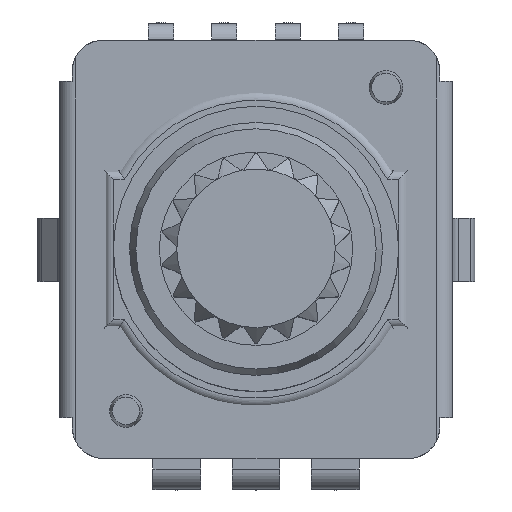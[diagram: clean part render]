
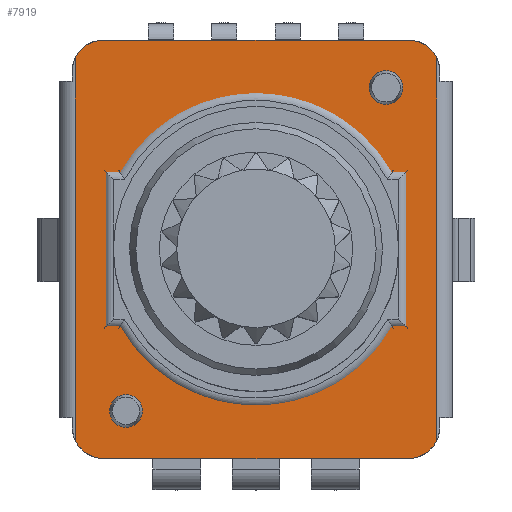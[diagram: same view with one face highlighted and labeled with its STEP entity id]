
A CAD part, top view. The second image highlights one B-rep face of the part: STEP entity #7919.
In plain terms, the highlighted planar face has unit normal (0, 0, 1).
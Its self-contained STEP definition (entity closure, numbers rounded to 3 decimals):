
#1057=LINE($,#12821,#1952);
#1144=LINE($,#13047,#2039);
#1199=LINE($,#13164,#2094);
#1200=LINE($,#13165,#2095);
#1952=VECTOR($,#10313,12.072);
#2039=VECTOR($,#10498,12.072);
#2094=VECTOR($,#10619,9.6);
#2095=VECTOR($,#10620,9.6);
#2612=FACE_OUTER_BOUND($,#3005,.T.);
#3005=EDGE_LOOP($,(#7128,#7129,#7130,#7131,#7132,#7133,#7134,#7135));
#3220=CIRCLE($,#8472,1.);
#3222=CIRCLE($,#8476,1.);
#3225=CIRCLE($,#8483,1.);
#3228=CIRCLE($,#8488,1.);
#3937=VERTEX_POINT($,#12774);
#3940=VERTEX_POINT($,#12785);
#3943=VERTEX_POINT($,#12795);
#3945=VERTEX_POINT($,#12804);
#3951=VERTEX_POINT($,#12820);
#3956=VERTEX_POINT($,#12839);
#3963=VERTEX_POINT($,#12859);
#3965=VERTEX_POINT($,#12867);
#5023=EDGE_CURVE($,#3940,#3937,#3220,.T.);
#5030=EDGE_CURVE($,#3945,#3943,#3222,.T.);
#5037=EDGE_CURVE($,#3943,#3951,#1057,.T.);
#5044=EDGE_CURVE($,#3951,#3956,#3225,.T.);
#5056=EDGE_CURVE($,#3963,#3965,#3228,.T.);
#5148=EDGE_CURVE($,#3937,#3963,#1144,.T.);
#5210=EDGE_CURVE($,#3965,#3945,#1199,.T.);
#5211=EDGE_CURVE($,#3956,#3940,#1200,.T.);
#7128=ORIENTED_EDGE($,*,*,#5037,.F.);
#7129=ORIENTED_EDGE($,*,*,#5030,.F.);
#7130=ORIENTED_EDGE($,*,*,#5210,.F.);
#7131=ORIENTED_EDGE($,*,*,#5056,.F.);
#7132=ORIENTED_EDGE($,*,*,#5148,.F.);
#7133=ORIENTED_EDGE($,*,*,#5023,.F.);
#7134=ORIENTED_EDGE($,*,*,#5211,.F.);
#7135=ORIENTED_EDGE($,*,*,#5044,.F.);
#7546=PLANE($,#8561);
#7919=ADVANCED_FACE($,(#2612),#7546,.T.);
#8472=AXIS2_PLACEMENT_3D($,#12787,#10288,#10289);
#8476=AXIS2_PLACEMENT_3D($,#12806,#10300,#10301);
#8483=AXIS2_PLACEMENT_3D($,#12840,#10324,#10325);
#8488=AXIS2_PLACEMENT_3D($,#12868,#10342,#10343);
#8561=AXIS2_PLACEMENT_3D($,#13163,#10617,#10618);
#10288=DIRECTION('center_axis',(0.,0.,
-1.));
#10289=DIRECTION('ref_axis',(0.707,0.707,0.));
#10300=DIRECTION('center_axis',(0.,0.,
-1.));
#10301=DIRECTION('ref_axis',(-0.707,-0.707,0.));
#10313=DIRECTION($,(0.,1.,0.));
#10324=DIRECTION('center_axis',(0.,0.,
-1.));
#10325=DIRECTION('ref_axis',(-0.707,0.707,0.));
#10342=DIRECTION('center_axis',(0.,0.,
-1.));
#10343=DIRECTION('ref_axis',(0.707,-0.707,0.));
#10498=DIRECTION($,(0.,-1.,0.));
#10617=DIRECTION('center_axis',(0.,0.,
1.));
#10618=DIRECTION('ref_axis',(1.,0.,0.));
#10619=DIRECTION($,(-1.,0.,0.));
#10620=DIRECTION($,(1.,0.,0.));
#12774=CARTESIAN_POINT('',(5.7,6.036,6.3));
#12785=CARTESIAN_POINT('',(4.8,6.6,6.3));
#12787=CARTESIAN_POINT('Origin',(4.8,5.6,6.3));
#12795=CARTESIAN_POINT('',(-5.7,-6.036,6.3));
#12804=CARTESIAN_POINT('',(-4.8,-6.6,6.3));
#12806=CARTESIAN_POINT('Origin',(-4.8,-5.6,6.3));
#12820=CARTESIAN_POINT('',(-5.7,6.036,6.3));
#12821=CARTESIAN_POINT($,(-5.7,0.,6.3));
#12839=CARTESIAN_POINT('',(-4.8,6.6,6.3));
#12840=CARTESIAN_POINT('Origin',(-4.8,5.6,6.3));
#12859=CARTESIAN_POINT('',(5.7,-6.036,6.3));
#12867=CARTESIAN_POINT('',(4.8,-6.6,6.3));
#12868=CARTESIAN_POINT('Origin',(4.8,-5.6,6.3));
#13047=CARTESIAN_POINT($,(5.7,0.,6.3));
#13163=CARTESIAN_POINT('Origin',(0.,0.,
6.3));
#13164=CARTESIAN_POINT($,(5.8,-6.6,6.3));
#13165=CARTESIAN_POINT($,(-5.8,6.6,6.3));
